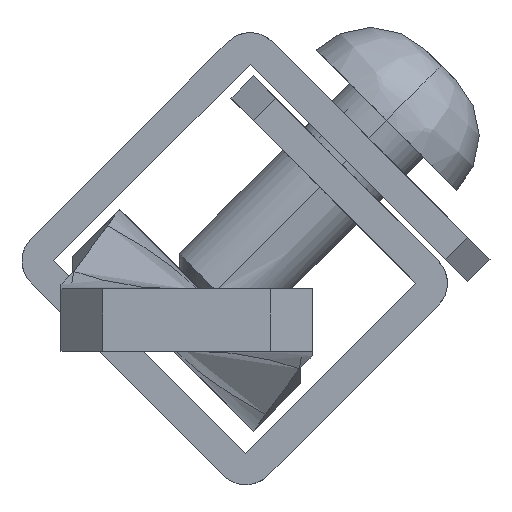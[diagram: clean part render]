
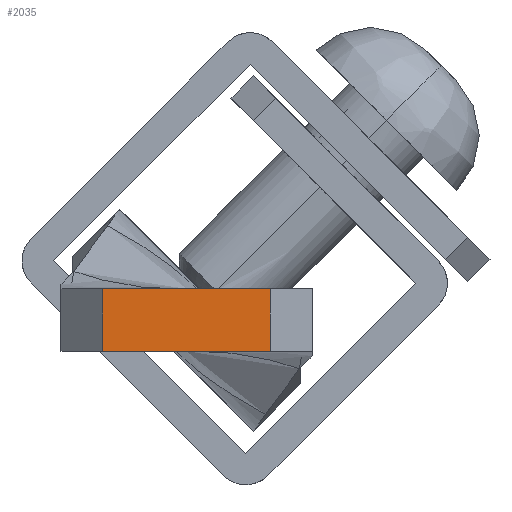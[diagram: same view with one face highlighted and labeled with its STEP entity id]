
A CAD part, left-side view. The second image highlights one B-rep face of the part: STEP entity #2035.
In plain terms, the highlighted planar face has unit normal (-1, 0, 0).
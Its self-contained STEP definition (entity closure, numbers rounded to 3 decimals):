
#58 = PLANE ( 'NONE',  #11139 ) ;
#93 = DIRECTION ( 'NONE',  ( 0., 0., 1. ) ) ;
#609 = VERTEX_POINT ( 'NONE', #4577 ) ;
#1729 = VECTOR ( 'NONE', #93, 1000. ) ;
#2035 = ADVANCED_FACE ( 'NONE', ( #10470 ), #58, .T. ) ;
#2142 = ORIENTED_EDGE ( 'NONE', *, *, #6480, .T. ) ;
#2545 = VECTOR ( 'NONE', #9348, 1000. ) ;
#2569 = DIRECTION ( 'NONE',  ( 0., -1., 0. ) ) ;
#2869 = ORIENTED_EDGE ( 'NONE', *, *, #7213, .T. ) ;
#3233 = CARTESIAN_POINT ( 'NONE',  ( -231.25, 4.16, -0.06 ) ) ;
#3437 = VERTEX_POINT ( 'NONE', #11238 ) ;
#3586 = ORIENTED_EDGE ( 'NONE', *, *, #8662, .T. ) ;
#4024 = CARTESIAN_POINT ( 'NONE',  ( -231.25, 0., 3. ) ) ;
#4090 = DIRECTION ( 'NONE',  ( 0., -1., 0. ) ) ;
#4097 = CARTESIAN_POINT ( 'NONE',  ( -231.25, 4., 0. ) ) ;
#4412 = CARTESIAN_POINT ( 'NONE',  ( -231.25, -4., 0. ) ) ;
#4577 = CARTESIAN_POINT ( 'NONE',  ( -231.25, 4., 3. ) ) ;
#4777 = ORIENTED_EDGE ( 'NONE', *, *, #5862, .T. ) ;
#5534 = VERTEX_POINT ( 'NONE', #4097 ) ;
#5862 = EDGE_CURVE ( 'NONE', #6286, #3437, #10404, .T. ) ;
#6286 = VERTEX_POINT ( 'NONE', #4412 ) ;
#6480 = EDGE_CURVE ( 'NONE', #5534, #6286, #8372, .T. ) ;
#6596 = DIRECTION ( 'NONE',  ( 0., 1., 0. ) ) ;
#7213 = EDGE_CURVE ( 'NONE', #609, #5534, #11109, .T. ) ;
#8372 = LINE ( 'NONE', #8667, #8386 ) ;
#8386 = VECTOR ( 'NONE', #2569, 1000. ) ;
#8608 = CARTESIAN_POINT ( 'NONE',  ( -231.25, 4., 1.5 ) ) ;
#8662 = EDGE_CURVE ( 'NONE', #3437, #609, #9613, .T. ) ;
#8667 = CARTESIAN_POINT ( 'NONE',  ( -231.25, 0., 0. ) ) ;
#9198 = EDGE_LOOP ( 'NONE', ( #3586, #2869, #2142, #4777 ) ) ;
#9335 = DIRECTION ( 'NONE',  ( -1., 0., 0. ) ) ;
#9348 = DIRECTION ( 'NONE',  ( 0., 0., -1. ) ) ;
#9534 = VECTOR ( 'NONE', #6596, 1000. ) ;
#9613 = LINE ( 'NONE', #4024, #9534 ) ;
#10404 = LINE ( 'NONE', #10478, #1729 ) ;
#10470 = FACE_OUTER_BOUND ( 'NONE', #9198, .T. ) ;
#10478 = CARTESIAN_POINT ( 'NONE',  ( -231.25, -4., 1.5 ) ) ;
#11109 = LINE ( 'NONE', #8608, #2545 ) ;
#11139 = AXIS2_PLACEMENT_3D ( 'NONE', #3233, #9335, #4090 ) ;
#11238 = CARTESIAN_POINT ( 'NONE',  ( -231.25, -4., 3. ) ) ;
